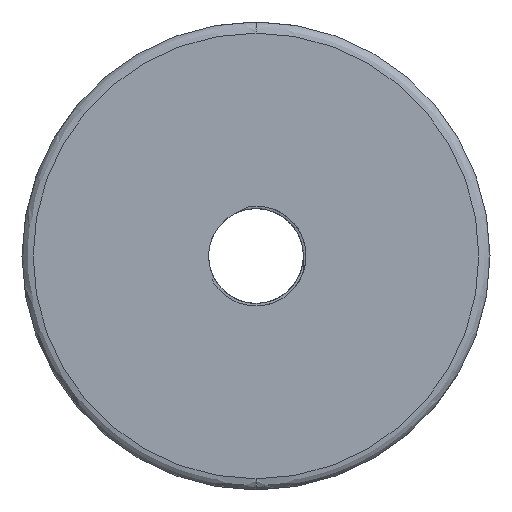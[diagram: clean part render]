
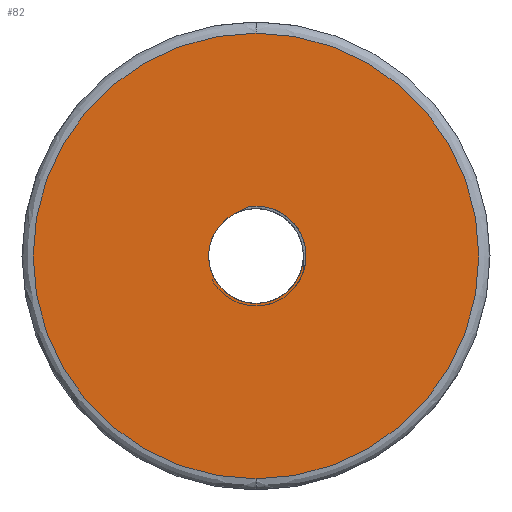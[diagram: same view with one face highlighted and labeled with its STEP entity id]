
A CAD part, front view. The second image highlights one B-rep face of the part: STEP entity #82.
In plain terms, the highlighted free-form (B-spline) face has degree [1, 1] with [2, 2] control points.
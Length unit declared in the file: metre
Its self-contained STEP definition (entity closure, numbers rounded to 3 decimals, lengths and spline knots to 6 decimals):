
#82 = ADVANCED_FACE( '', ( #147, #148 ), #149, .F. );
#147 = FACE_BOUND( '', #624, .T. );
#148 = FACE_OUTER_BOUND( '', #625, .T. );
#149 = B_SPLINE_SURFACE_WITH_KNOTS( '', 1, 1, ( ( #626, #627 ), ( #628, #629 ) ), .UNSPECIFIED., .F., .F., .F., ( 2, 2 ), ( 2, 2 ), ( 0., 1. ), ( 0., 1. ), .UNSPECIFIED. );
#624 = EDGE_LOOP( '', ( #1345, #1346, #1347, #1348, #1349, #1350 ) );
#625 = EDGE_LOOP( '', ( #1351, #1352 ) );
#626 = CARTESIAN_POINT( '', ( -0.02024, 0., -0.02024 ) );
#627 = CARTESIAN_POINT( '', ( 0.02024, 0., -0.02024 ) );
#628 = CARTESIAN_POINT( '', ( -0.02024, 0., 0.02024 ) );
#629 = CARTESIAN_POINT( '', ( 0.02024, 0., 0.02024 ) );
#1345 = ORIENTED_EDGE( '', *, *, #1767, .F. );
#1346 = ORIENTED_EDGE( '', *, *, #1777, .F. );
#1347 = ORIENTED_EDGE( '', *, *, #1818, .F. );
#1348 = ORIENTED_EDGE( '', *, *, #1819, .F. );
#1349 = ORIENTED_EDGE( '', *, *, #1820, .F. );
#1350 = ORIENTED_EDGE( '', *, *, #1800, .F. );
#1351 = ORIENTED_EDGE( '', *, *, #1821, .F. );
#1352 = ORIENTED_EDGE( '', *, *, #1822, .F. );
#1767 = EDGE_CURVE( '', #1922, #1923, #1924, .F. );
#1777 = EDGE_CURVE( '', #1940, #1922, #1942, .F. );
#1800 = EDGE_CURVE( '', #1923, #1987, #1988, .T. );
#1818 = EDGE_CURVE( '', #2021, #1940, #2022, .T. );
#1819 = EDGE_CURVE( '', #2023, #2021, #2024, .T. );
#1820 = EDGE_CURVE( '', #1987, #2023, #2025, .T. );
#1821 = EDGE_CURVE( '', #2026, #2027, #2028, .T. );
#1822 = EDGE_CURVE( '', #2027, #2026, #2029, .T. );
#1922 = VERTEX_POINT( '', #2177 );
#1923 = VERTEX_POINT( '', #2178 );
#1924 = CIRCLE( '', #2179, 0.004484 );
#1940 = VERTEX_POINT( '', #2241 );
#1942 = CIRCLE( '', #2256, 0.004484 );
#1987 = VERTEX_POINT( '', #2663 );
#1988 = LINE( '', #2664, #2665 );
#2021 = VERTEX_POINT( '', #3087 );
#2022 = LINE( '', #3088, #3089 );
#2023 = VERTEX_POINT( '', #3090 );
#2024 = CIRCLE( '', #3091, 0.00425 );
#2025 = CIRCLE( '', #3092, 0.00425 );
#2026 = VERTEX_POINT( '', #3093 );
#2027 = VERTEX_POINT( '', #3094 );
#2028 = CIRCLE( '', #3095, 0.02 );
#2029 = CIRCLE( '', #3096, 0.02 );
#2177 = CARTESIAN_POINT( '', ( 0., 0., 0.004484 ) );
#2178 = CARTESIAN_POINT( '', ( -0.000633, 0., 0.004439 ) );
#2179 = AXIS2_PLACEMENT_3D( '', #3866, #3867, #3868 );
#2241 = CARTESIAN_POINT( '', ( 0.004243, 0., -0.001449 ) );
#2256 = AXIS2_PLACEMENT_3D( '', #3877, #3878, #3879 );
#2663 = CARTESIAN_POINT( '', ( -0.001909, 0., 0.003797 ) );
#2664 = CARTESIAN_POINT( '', ( -0.001277, 0., 0.004115 ) );
#2665 = VECTOR( '', #3880, 1. );
#3087 = CARTESIAN_POINT( '', ( 0.00425, 0., -0.00002 ) );
#3088 = CARTESIAN_POINT( '', ( 0.004247, 0., -0.000727 ) );
#3089 = VECTOR( '', #3882, 1. );
#3090 = CARTESIAN_POINT( '', ( 0., 0., -0.00425 ) );
#3091 = AXIS2_PLACEMENT_3D( '', #3883, #3884, #3885 );
#3092 = AXIS2_PLACEMENT_3D( '', #3886, #3887, #3888 );
#3093 = CARTESIAN_POINT( '', ( 0., 0., 0.02 ) );
#3094 = CARTESIAN_POINT( '', ( 0., 0., -0.02 ) );
#3095 = AXIS2_PLACEMENT_3D( '', #3889, #3890, #3891 );
#3096 = AXIS2_PLACEMENT_3D( '', #3892, #3893, #3894 );
#3866 = CARTESIAN_POINT( '', ( 0., 0., 0. ) );
#3867 = DIRECTION( '', ( 0., 1., 0. ) );
#3868 = DIRECTION( '', ( 0., 0., 1. ) );
#3877 = CARTESIAN_POINT( '', ( 0., 0., 0. ) );
#3878 = DIRECTION( '', ( 0., 1., 0. ) );
#3879 = DIRECTION( '', ( 0., 0., 1. ) );
#3880 = DIRECTION( '', ( -0.893, 0., -0.449 ) );
#3882 = DIRECTION( '', ( -0.005, 0., -1. ) );
#3883 = CARTESIAN_POINT( '', ( 0., 0., 0. ) );
#3884 = DIRECTION( '', ( 0., -1., 0. ) );
#3885 = DIRECTION( '', ( 0., 0., -1. ) );
#3886 = CARTESIAN_POINT( '', ( 0., 0., 0. ) );
#3887 = DIRECTION( '', ( 0., -1., 0. ) );
#3888 = DIRECTION( '', ( 0., 0., -1. ) );
#3889 = CARTESIAN_POINT( '', ( 0., 0., 0. ) );
#3890 = DIRECTION( '', ( 0., 1., 0. ) );
#3891 = DIRECTION( '', ( -1., 0., 0. ) );
#3892 = CARTESIAN_POINT( '', ( 0., 0., 0. ) );
#3893 = DIRECTION( '', ( 0., 1., 0. ) );
#3894 = DIRECTION( '', ( -1., 0., 0. ) );
